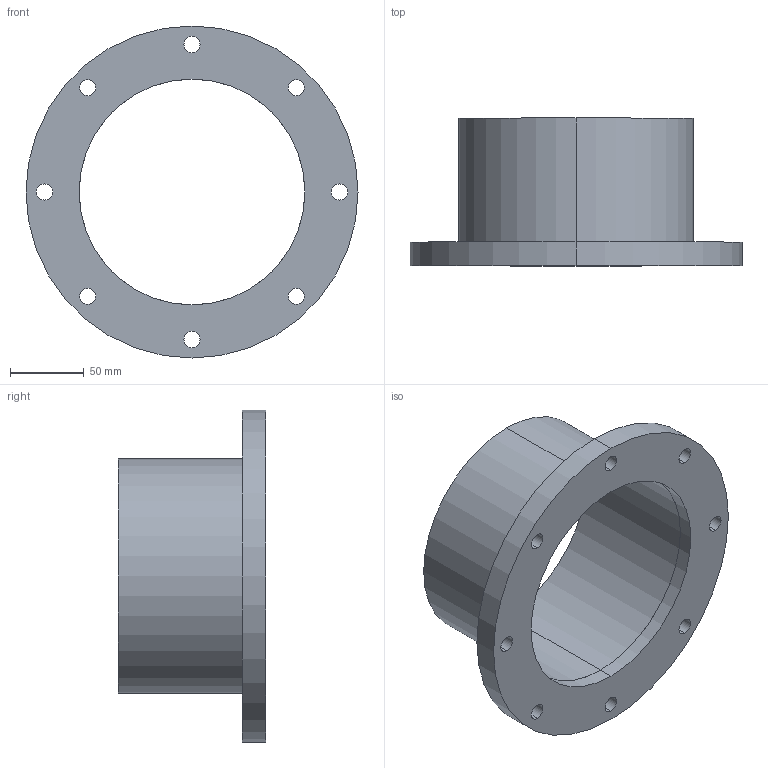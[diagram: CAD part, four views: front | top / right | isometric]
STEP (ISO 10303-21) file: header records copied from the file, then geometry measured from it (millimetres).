
FILE_DESCRIPTION (( 'STEP AP214' ), '1' );
FILE_NAME ('W5KR160.STEP', '2019-04-05T07:38:40', ( '' ), ( '' ), 'SwSTEP 2.0', 'SolidWorks 2018', '' );
FILE_SCHEMA (( 'AUTOMOTIVE_DESIGN' ));
Length unit declared in the file: millimetre
Products named in the file (1): W5KR160
Bounding box: 225 x 100 x 225 mm (x, y, z)
Volume: 452203.2 mm3; surface area: 155889.9 mm2
Topology: 2 solids, 2 shells, 31 faces, 78 edges, 52 vertices
Faces by surface type: cylinder 26, plane 5
Entity records: 1047 total; most frequent: DIRECTION 194, CARTESIAN_POINT 162, ORIENTED_EDGE 156, AXIS2_PLACEMENT_3D 84, EDGE_CURVE 78, VERTEX_POINT 52, CIRCLE 52, EDGE_LOOP 52
